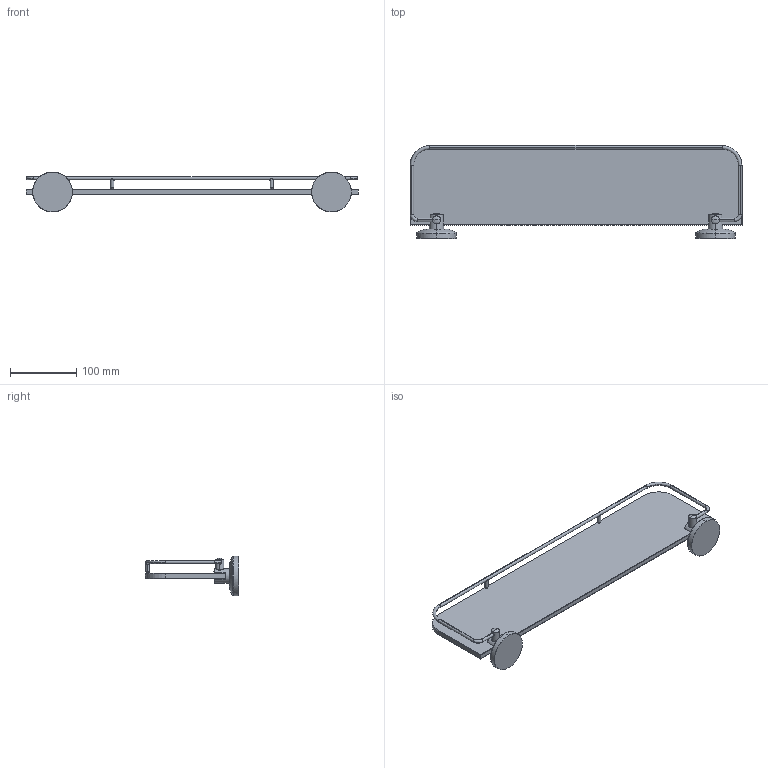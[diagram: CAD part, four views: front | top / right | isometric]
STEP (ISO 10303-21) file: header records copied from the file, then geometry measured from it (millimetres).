
FILE_DESCRIPTION(('THIS FILE CONTAINS SOME STEP INSTANCES'),'1');
FILE_NAME('sta_015.stp','2015-12-02T15:20:52',('UNDEFINED'),('UNDEFINED'),'T-FLEX CAD STEP converter','T-FLEX CAD','');
FILE_SCHEMA(('CONFIG_CONTROL_DESIGN'));
Length unit declared in the file: metre
Products named in the file (2): 3D 鐨飹懤艜_12; 610517
Bounding box: 500 x 140.1 x 60 mm (x, y, z)
Volume: 575142.3 mm3; surface area: 159792.9 mm2
Topology: 2 solids, 2 shells, 162 faces, 366 edges, 206 vertices
Faces by surface type: plane 46, cone 36, cylinder 28, bspline 26, torus 16, sphere 10
Entity records: 12167 total; most frequent: CARTESIAN_POINT 9047, ORIENTED_EDGE 724, DIRECTION 534, EDGE_CURVE 362, VERTEX_POINT 206, AXIS2_PLACEMENT_3D 191, EDGE_LOOP 164, ADVANCED_FACE 162
